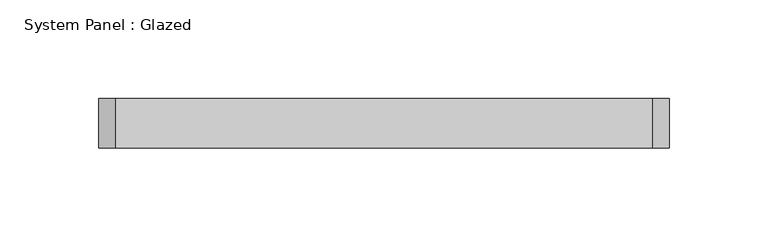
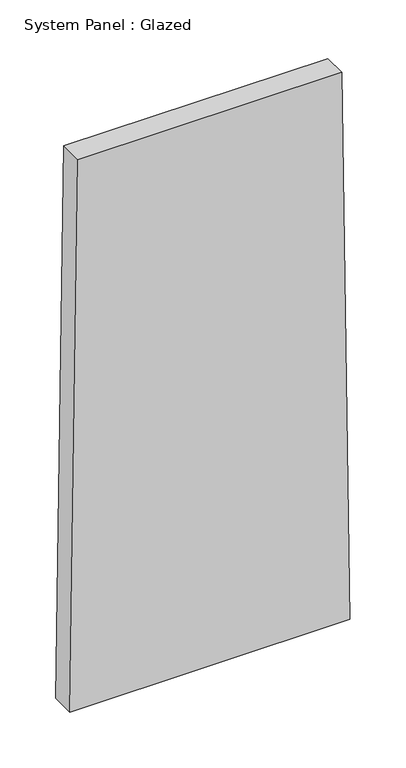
"""IFC4 building model written with IfcOpenShell, lengths in millimetres: plate geometry, System Panel : Glazed."""

from ifc_helpers import new_model, si_unit, frame, origin, place, context, project, spatial, polyline, outline, extrude, source, transform, mapped, element, save


def system_panel_glazed_bc95eb93(model_context):
    return source(origin(), model_context, "Body", "SweptSolid", [
        extrude(outline(polyline([(0.0, -144.4025597), (0.0, 144.4025597), (599.9427691, 136.1155915), (599.9427691, -136.1155915), (0.0, -144.4025597)])), frame((0.0, 24.5, 0.0), z_axis=(0.0, 1.0, 0.0), x_axis=(0.0, 0.0, 1.0)), (0.0, 0.0, 1.0), 25.0),
    ])


if __name__ == "__main__":
    model = new_model("IFC4")
    model_context = context("Model", 3, world=origin())
    ifc_project = project(units=[si_unit("LENGTHUNIT", "METRE", prefix="MILLI")], contexts=[model_context])
    site = spatial("IfcSite", under=ifc_project)
    building = spatial("IfcBuilding", under=site)
    placement = place(None, origin())
    system_panel_glazed_shape = system_panel_glazed_bc95eb93(model_context)
    element("IfcPlate", 1, ObjectType="System Panel : Glazed", at=placement, inside=building, context=model_context, shape_type="MappedRepresentation", body=[
        mapped(system_panel_glazed_shape, transform((0.0, 0.0, 0.0), x_axis=(1.0, 0.0, 0.0), y_axis=(0.0, 1.0, 0.0), z_axis=(0.0, 0.0, 1.0))),
    ])
    save(model, "model.ifc")
